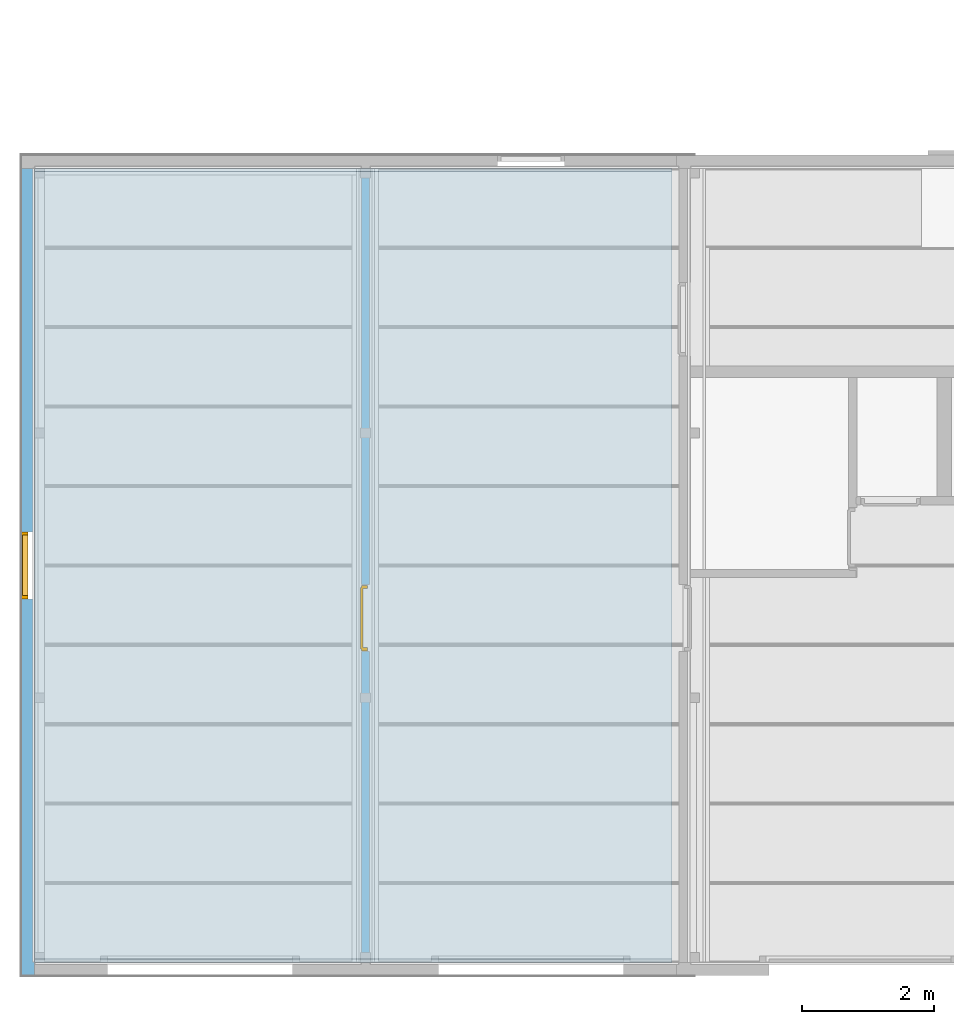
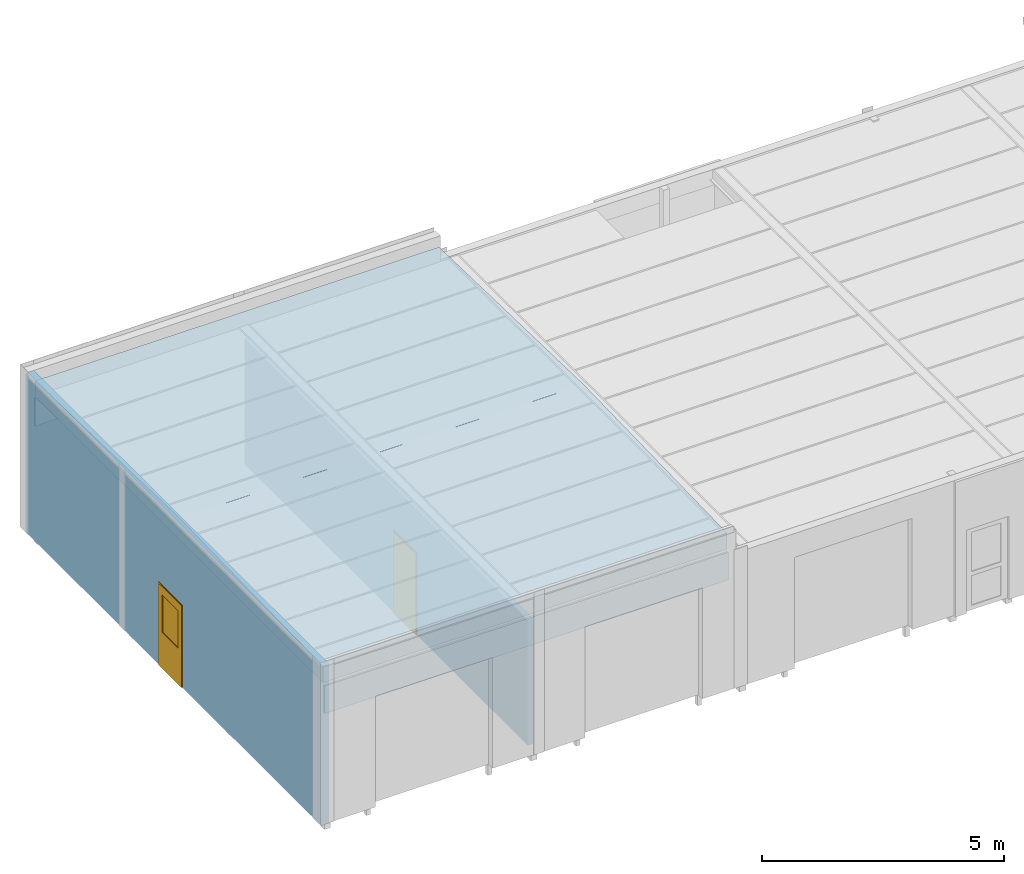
# One storey, part 20 of 45: 2 doors, 1 slab, 2 openings, plus 2 elements that do not belong to this part.
"""IFC2X3 building model written with IfcOpenShell, lengths in millimetres."""

from ifc_helpers import new_model, entity, si_unit, converted_unit, frame, frame_2d, origin, origin_with_axes, place, context, subcontext, project, spatial, rectangle, extrude, faceted_brep, material, layer, layer_set, layer_usage, type_object, element, fill, save


model = new_model("IFC2X3")

# Units and contexts
model_context = context("Model", 3, precision=1e-05, world=origin())
plan_context = context("Plan", 3, precision=1e-05, world=origin())
body_context = subcontext(model_context, "Body", "Model", "MODEL_VIEW")
ifc_project = project(units=[si_unit("LENGTHUNIT", "METRE", prefix="MILLI"), converted_unit("PLANEANGLEUNIT", "DEGREE", entity("IfcPlaneAngleMeasure", 0.0174532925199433), si_unit("PLANEANGLEUNIT", "RADIAN"), dimensions=[0, 0, 0, 0, 0, 0, 0]), si_unit("AREAUNIT", "SQUARE_METRE"), si_unit("VOLUMEUNIT", "CUBIC_METRE")], contexts=[model_context, plan_context])

# Building, storey
building_placement = place(None, origin())
building = spatial("IfcBuilding", under=ifc_project, at=building_placement, Name="HEKF Administrasjonbygg", CompositionType="ELEMENT")
storey_placement = place(building_placement, frame((0.0, 0.0, 6500.0), z_axis=(0.0, 0.0, 1.0), x_axis=(1.0, 0.0, 0.0)))
storey = spatial("IfcBuildingStorey", under=building, at=storey_placement, Name="Plan 1", CompositionType="ELEMENT", Elevation=6500.0)

# Slab
ifc_material_1 = material(Name="Betong")
slab_placement = place(storey_placement, frame((0.0, 0.0, -6500.0), z_axis=(0.0, 0.0, 1.0), x_axis=(1.0, 0.0, 0.0)))
element("IfcSlab", 1, at=slab_placement, inside=storey, material=ifc_material_1, PredefinedType="FLOOR", context=body_context, shape_type="Brep", body=[
    faceted_brep([(9634.999999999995, -6000.00000000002, 9870.0), (9.066525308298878e-12, -6000.000000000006, 9870.0), (9.066525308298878e-12, -6025.000000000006, 9870.0), (9634.999999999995, -6024.999999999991, 9870.0), (9.066525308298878e-12, -6000.000000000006, 10425.80623333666), (9634.999999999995, -6000.00000000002, 10425.80623333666), (9634.999999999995, -6024.999999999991, 10426.46088137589), (9.066525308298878e-12, -6025.000000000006, 10426.46088137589), (9.066525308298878e-12, -6000.000000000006, 9870.0), (9634.999999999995, -6000.00000000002, 9870.0), (9634.999999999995, -6000.00000000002, 10425.80623333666), (9.066525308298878e-12, -6000.000000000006, 10425.80623333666), (9.066525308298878e-12, -6025.000000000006, 9870.0), (9.066525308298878e-12, -6000.000000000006, 9870.0), (9.066525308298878e-12, -6000.000000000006, 10425.80623333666), (9.066525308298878e-12, -6025.000000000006, 10426.46088137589), (9634.999999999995, -6024.999999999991, 9870.0), (9.066525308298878e-12, -6025.000000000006, 9870.0), (9.066525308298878e-12, -6025.000000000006, 10426.46088137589), (9634.999999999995, -6024.999999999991, 10426.46088137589), (9634.999999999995, -6000.00000000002, 9870.0), (9634.999999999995, -6024.999999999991, 9870.0), (9634.999999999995, -6024.999999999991, 10426.46088137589), (9634.999999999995, -6000.00000000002, 10425.80623333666)], [[[0, 1, 2, 3]], [[4, 5, 6, 7]], [[8, 9, 10, 11]], [[12, 13, 14, 15]], [[16, 17, 18, 19]], [[20, 21, 22, 23]]], orient=[[False], [False], [False], [False], [False], [False]]),
    faceted_brep([(9634.999999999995, -50.00000000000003, 9870.0), (9.066525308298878e-12, -50.00000000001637, 9870.0), (9.066525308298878e-12, -5974.999999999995, 9870.0), (9634.999999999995, -5975.000000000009, 9870.0), (9.066525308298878e-12, -50.00000000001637, 10270.0), (9634.999999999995, -50.00000000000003, 10270.0), (9634.999999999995, -5975.000000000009, 10425.15158529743), (9.066525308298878e-12, -5974.999999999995, 10425.15158529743), (9.066525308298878e-12, -50.00000000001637, 9870.0), (9634.999999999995, -50.00000000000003, 9870.0), (9634.999999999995, -50.00000000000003, 10270.0), (9.066525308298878e-12, -50.00000000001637, 10270.0), (9.066525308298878e-12, -5974.999999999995, 9870.0), (9.066525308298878e-12, -50.00000000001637, 9870.0), (9.066525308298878e-12, -50.00000000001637, 10270.0), (9.066525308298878e-12, -5974.999999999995, 10425.15158529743), (9634.999999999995, -5975.000000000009, 9870.0), (9.066525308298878e-12, -5974.999999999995, 9870.0), (9.066525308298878e-12, -5974.999999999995, 10425.15158529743), (9634.999999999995, -5975.000000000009, 10425.15158529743), (9634.999999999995, -50.00000000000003, 9870.0), (9634.999999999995, -5975.000000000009, 9870.0), (9634.999999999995, -5975.000000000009, 10425.15158529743), (9634.999999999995, -50.00000000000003, 10270.0)], [[[0, 1, 2, 3]], [[4, 5, 6, 7]], [[8, 9, 10, 11]], [[12, 13, 14, 15]], [[16, 17, 18, 19]], [[20, 21, 22, 23]]], orient=[[False], [False], [False], [False], [False], [False]]),
    faceted_brep([(9634.999999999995, -6000.00000000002, 9870.0), (9634.999999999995, -5975.000000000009, 9870.0), (9.066525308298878e-12, -5974.999999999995, 9870.0), (9.066525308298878e-12, -6000.000000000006, 9870.0), (9634.999999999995, -5975.000000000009, 10426.46088137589), (9634.999999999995, -6000.00000000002, 10425.80623333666), (9.066525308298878e-12, -6000.000000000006, 10425.80623333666), (9.066525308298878e-12, -5974.999999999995, 10426.46088137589), (9634.999999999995, -5975.000000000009, 9870.0), (9634.999999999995, -6000.00000000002, 9870.0), (9634.999999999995, -6000.00000000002, 10425.80623333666), (9634.999999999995, -5975.000000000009, 10426.46088137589), (9.066525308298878e-12, -5974.999999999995, 9870.0), (9634.999999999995, -5975.000000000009, 9870.0), (9634.999999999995, -5975.000000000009, 10426.46088137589), (9.066525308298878e-12, -5974.999999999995, 10426.46088137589), (9.066525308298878e-12, -6000.000000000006, 9870.0), (9.066525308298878e-12, -5974.999999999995, 9870.0), (9.066525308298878e-12, -5974.999999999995, 10426.46088137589), (9.066525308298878e-12, -6000.000000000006, 10425.80623333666), (9634.999999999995, -6000.00000000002, 9870.0), (9.066525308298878e-12, -6000.000000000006, 9870.0), (9.066525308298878e-12, -6000.000000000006, 10425.80623333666), (9634.999999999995, -6000.00000000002, 10425.80623333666)], [[[0, 1, 2, 3]], [[4, 5, 6, 7]], [[8, 9, 10, 11]], [[12, 13, 14, 15]], [[16, 17, 18, 19]], [[20, 21, 22, 23]]], orient=[[False], [False], [False], [False], [False], [False]]),
    faceted_brep([(9.066525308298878e-12, -11949.99999999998, 9870.0), (9634.999999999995, -11950.0, 9870.0), (9634.999999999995, -6024.999999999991, 9870.0), (9.066525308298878e-12, -6025.000000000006, 9870.0), (9634.999999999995, -11950.0, 10270.0), (9.066525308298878e-12, -11949.99999999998, 10270.0), (9.066525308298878e-12, -6025.000000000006, 10425.15158529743), (9634.999999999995, -6024.999999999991, 10425.15158529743), (9634.999999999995, -11950.0, 9870.0), (9.066525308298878e-12, -11949.99999999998, 9870.0), (9.066525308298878e-12, -11949.99999999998, 10270.0), (9634.999999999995, -11950.0, 10270.0), (9634.999999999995, -6024.999999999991, 9870.0), (9634.999999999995, -11950.0, 9870.0), (9634.999999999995, -11950.0, 10270.0), (9634.999999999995, -6024.999999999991, 10425.15158529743), (9.066525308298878e-12, -6025.000000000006, 9870.0), (9634.999999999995, -6024.999999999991, 9870.0), (9634.999999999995, -6024.999999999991, 10425.15158529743), (9.066525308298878e-12, -6025.000000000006, 10425.15158529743), (9.066525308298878e-12, -11949.99999999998, 9870.0), (9.066525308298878e-12, -6025.000000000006, 9870.0), (9.066525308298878e-12, -6025.000000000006, 10425.15158529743), (9.066525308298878e-12, -11949.99999999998, 10270.0)], [[[0, 1, 2, 3]], [[4, 5, 6, 7]], [[8, 9, 10, 11]], [[12, 13, 14, 15]], [[16, 17, 18, 19]], [[20, 21, 22, 23]]], orient=[[False], [False], [False], [False], [False], [False]]),
    faceted_brep([(9634.999999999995, -11950.0, 9820.0), (9634.999999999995, -12000.0, 9820.0), (9.066525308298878e-12, -12000.00000000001, 9820.0), (9.066525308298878e-12, -11949.99999999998, 9820.0), (9634.999999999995, -11950.0, 9120.0), (9.066525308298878e-12, -11949.99999999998, 9120.0), (9.066525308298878e-12, -12000.00000000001, 9120.0), (9634.999999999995, -12000.0, 9120.0), (9.066525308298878e-12, -5.570655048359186e-12, 9820.0), (9634.999999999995, -1.13686837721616e-13, 9820.0), (9634.999999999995, -50.00000000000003, 9820.0), (9.066525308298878e-12, -50.00000000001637, 9820.0), (9.066525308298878e-12, -5.570655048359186e-12, 9120.0), (9.066525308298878e-12, -50.00000000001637, 9120.0), (9634.999999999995, -50.00000000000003, 9120.0), (9634.999999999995, -1.13686837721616e-13, 9120.0), (9634.999999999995, -11950.0, 9820.0), (9.066525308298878e-12, -11949.99999999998, 9820.0), (9.066525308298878e-12, -11949.99999999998, 9120.0), (9634.999999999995, -11950.0, 9120.0), (9.066525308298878e-12, -11949.99999999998, 9820.0), (9.066525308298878e-12, -12000.00000000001, 9820.0), (9.066525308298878e-12, -12000.00000000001, 9120.0), (9.066525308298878e-12, -11949.99999999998, 9120.0), (9.066525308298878e-12, -12000.00000000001, 9820.0), (9634.999999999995, -12000.0, 9820.0), (9634.999999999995, -12000.0, 9120.0), (9.066525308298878e-12, -12000.00000000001, 9120.0), (9634.999999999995, -12000.0, 9820.0), (9634.999999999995, -11950.0, 9820.0), (9634.999999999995, -11950.0, 9120.0), (9634.999999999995, -12000.0, 9120.0), (9.066525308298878e-12, -5.570655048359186e-12, 9820.0), (9.066525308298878e-12, -50.00000000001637, 9820.0), (9.066525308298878e-12, -50.00000000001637, 9120.0), (9.066525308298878e-12, -5.570655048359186e-12, 9120.0), (9.066525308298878e-12, -50.00000000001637, 9820.0), (9634.999999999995, -50.00000000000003, 9820.0), (9634.999999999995, -50.00000000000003, 9120.0), (9.066525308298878e-12, -50.00000000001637, 9120.0), (9634.999999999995, -50.00000000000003, 9820.0), (9634.999999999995, -1.13686837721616e-13, 9820.0), (9634.999999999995, -1.13686837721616e-13, 9120.0), (9634.999999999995, -50.00000000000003, 9120.0), (9634.999999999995, -1.13686837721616e-13, 9820.0), (9.066525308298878e-12, -5.570655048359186e-12, 9820.0), (9.066525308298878e-12, -5.570655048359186e-12, 9120.0), (9634.999999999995, -1.13686837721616e-13, 9120.0)], [[[0, 1, 2, 3]], [[4, 5, 6, 7]], [[8, 9, 10, 11]], [[12, 13, 14, 15]], [[16, 17, 18, 19]], [[20, 21, 22, 23]], [[24, 25, 26, 27]], [[28, 29, 30, 31]], [[32, 33, 34, 35]], [[36, 37, 38, 39]], [[40, 41, 42, 43]], [[44, 45, 46, 47]]], orient=[[False], [False], [False], [False], [False], [False], [False], [False], [False], [False], [False], [False]]),
])

# Wall, opening, door
ifc_material_2 = material(Name="Paroc 200")
ifc_layer_1 = layer(ifc_material_2, 200.0)
ifc_layer_set_1 = layer_set([ifc_layer_1])
ifc_layer_usage_1 = layer_usage(ifc_layer_set_1, "AXIS2", "POSITIVE", 0.0)
wall_1_placement = place(storey_placement, frame((-5.57823417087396e-12, -12200.0, 0.0), z_axis=(0.0, 0.0, 1.0), x_axis=(6.063298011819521e-16, 1.0, 0.0)))
wall_1 = element("IfcWallStandardCase", 2, at=wall_1_placement, inside=storey, material=ifc_layer_usage_1, context=body_context, shape_type="SweptSolid", body=[
    extrude(rectangle(XDim=12200.0, YDim=200.0, at=frame_2d((6100.0, 100.0), x_axis=(1.0, 0.0))), origin_with_axes(), (0.0, 0.0, 1.0), 4000.0),
])
opening_1_placement = place(wall_1_placement, frame((5695.0, 1.211690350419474e-27, 0.0), z_axis=(0.0, 1.0, 0.0), x_axis=(0.0, 0.0, 1.0)))
opening_1 = element("IfcOpeningElement", 3, at=opening_1_placement, cuts=wall_1, Name="D001", ObjectType="Opening", context=body_context, shape_type="SweptSolid", body=[
    extrude(rectangle(XDim=2100.0, YDim=1010.0, at=frame_2d((1050.0, 505.0), x_axis=(1.0, 0.0))), origin_with_axes(), (0.0, 0.0, 1.0), 200.0),
])
ifc_material_3 = material()
door_style_1 = type_object("IfcDoorStyle", Name="D001", ConstructionType="NOTDEFINED", OperationType="USERDEFINED", ParameterTakesPrecedence=False, Sizeable=False)
door_1_placement = place(opening_1_placement, frame((0.0, 0.0, 0.0), z_axis=(1.0, 0.0, 0.0), x_axis=(0.0, 1.0, 0.0)))
door_1 = element("IfcDoor", 4, at=door_1_placement, inside=storey, type_object=door_style_1, material=ifc_material_3, Name="D001", OverallHeight=2100.0, OverallWidth=1010.0, context=body_context, shape_type="Brep", body=[
    faceted_brep([(1010.0, 200.0000000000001, 2100.0), (960.0, 200.0000000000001, 2100.0), (960.0, 200.0, -3.061616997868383e-15), (1010.0, 200.0, -3.061616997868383e-15), (1010.0, 100.0, 3.061616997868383e-15), (960.0, 99.99999999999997, 3.061616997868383e-15), (960.0, 100.0000000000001, 2100.0), (1010.0, 100.0000000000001, 2100.0), (1010.0, 200.0, -3.061616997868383e-15), (1010.0, 100.0, 3.061616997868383e-15), (1010.0, 100.0000000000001, 2100.0), (1010.0, 200.0000000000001, 2100.0), (960.0, 200.0, -3.061616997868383e-15), (960.0, 99.99999999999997, 3.061616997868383e-15), (1010.0, 100.0, 3.061616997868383e-15), (1010.0, 200.0, -3.061616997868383e-15), (960.0, 200.0000000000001, 2100.0), (960.0, 100.0000000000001, 2100.0), (960.0, 99.99999999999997, 3.061616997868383e-15), (960.0, 200.0, -3.061616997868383e-15), (1010.0, 200.0000000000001, 2100.0), (1010.0, 100.0000000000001, 2100.0), (960.0, 100.0000000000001, 2100.0), (960.0, 200.0000000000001, 2100.0)], [[[0, 1, 2, 3]], [[4, 5, 6, 7]], [[8, 9, 10, 11]], [[12, 13, 14, 15]], [[16, 17, 18, 19]], [[20, 21, 22, 23]]], orient=[[False], [False], [False], [False], [False], [False]]),
    faceted_brep([(50.0, 199.9999999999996, 2100.0), (0.0, 199.9999999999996, 2100.0), (0.0, 199.9999999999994, -3.061616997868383e-15), (50.0, 199.9999999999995, -3.061616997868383e-15), (50.0, 99.99999999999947, 3.061616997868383e-15), (0.0, 99.99999999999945, 3.061616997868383e-15), (0.0, 99.99999999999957, 2100.0), (50.0, 99.9999999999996, 2100.0), (50.0, 199.9999999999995, -3.061616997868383e-15), (50.0, 99.99999999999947, 3.061616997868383e-15), (50.0, 99.9999999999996, 2100.0), (50.0, 199.9999999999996, 2100.0), (0.0, 199.9999999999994, -3.061616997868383e-15), (0.0, 99.99999999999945, 3.061616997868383e-15), (50.0, 99.99999999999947, 3.061616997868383e-15), (50.0, 199.9999999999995, -3.061616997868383e-15), (0.0, 199.9999999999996, 2100.0), (0.0, 99.99999999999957, 2100.0), (0.0, 99.99999999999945, 3.061616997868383e-15), (0.0, 199.9999999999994, -3.061616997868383e-15), (50.0, 199.9999999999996, 2100.0), (50.0, 99.9999999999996, 2100.0), (0.0, 99.99999999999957, 2100.0), (0.0, 199.9999999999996, 2100.0)], [[[0, 1, 2, 3]], [[4, 5, 6, 7]], [[8, 9, 10, 11]], [[12, 13, 14, 15]], [[16, 17, 18, 19]], [[20, 21, 22, 23]]], orient=[[False], [False], [False], [False], [False], [False]]),
    faceted_brep([(960.0, 200.0, 9.999999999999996), (50.00000000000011, 199.9999999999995, 9.999999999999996), (50.00000000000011, 199.9999999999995, -3.061616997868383e-15), (960.0, 200.0, -3.061616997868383e-15), (960.0, 99.99999999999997, 3.061616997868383e-15), (50.00000000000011, 99.99999999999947, 3.061616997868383e-15), (50.00000000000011, 99.99999999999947, 10.0), (960.0, 99.99999999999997, 10.0), (960.0, 200.0, -3.061616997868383e-15), (960.0, 99.99999999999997, 3.061616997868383e-15), (960.0, 99.99999999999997, 10.0), (960.0, 200.0, 9.999999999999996), (50.00000000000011, 199.9999999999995, -3.061616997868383e-15), (50.00000000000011, 99.99999999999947, 3.061616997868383e-15), (960.0, 99.99999999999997, 3.061616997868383e-15), (960.0, 200.0, -3.061616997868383e-15), (50.00000000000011, 199.9999999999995, 9.999999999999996), (50.00000000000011, 99.99999999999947, 10.0), (50.00000000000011, 99.99999999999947, 3.061616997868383e-15), (50.00000000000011, 199.9999999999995, -3.061616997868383e-15), (960.0, 200.0, 9.999999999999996), (960.0, 99.99999999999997, 10.0), (50.00000000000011, 99.99999999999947, 10.0), (50.00000000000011, 199.9999999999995, 9.999999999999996)], [[[0, 1, 2, 3]], [[4, 5, 6, 7]], [[8, 9, 10, 11]], [[12, 13, 14, 15]], [[16, 17, 18, 19]], [[20, 21, 22, 23]]], orient=[[False], [False], [False], [False], [False], [False]]),
    faceted_brep([(960.0, 200.0000000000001, 2100.000000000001), (50.00000000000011, 199.9999999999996, 2100.000000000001), (50.00000000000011, 199.9999999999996, 2050.000000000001), (960.0, 200.0000000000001, 2050.000000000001), (960.0, 100.0000000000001, 2050.000000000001), (50.00000000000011, 99.9999999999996, 2050.000000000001), (50.00000000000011, 99.9999999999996, 2100.000000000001), (960.0, 100.0000000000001, 2100.000000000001), (960.0, 200.0000000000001, 2050.000000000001), (960.0, 100.0000000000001, 2050.000000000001), (960.0, 100.0000000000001, 2100.000000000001), (960.0, 200.0000000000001, 2100.000000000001), (50.00000000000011, 199.9999999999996, 2050.000000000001), (50.00000000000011, 99.9999999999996, 2050.000000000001), (960.0, 100.0000000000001, 2050.000000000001), (960.0, 200.0000000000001, 2050.000000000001), (50.00000000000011, 199.9999999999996, 2100.000000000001), (50.00000000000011, 99.9999999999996, 2100.000000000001), (50.00000000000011, 99.9999999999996, 2050.000000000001), (50.00000000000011, 199.9999999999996, 2050.000000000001), (960.0, 200.0000000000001, 2100.000000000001), (960.0, 100.0000000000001, 2100.000000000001), (50.00000000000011, 99.9999999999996, 2100.000000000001), (50.00000000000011, 199.9999999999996, 2100.000000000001)], [[[0, 1, 2, 3]], [[4, 5, 6, 7]], [[8, 9, 10, 11]], [[12, 13, 14, 15]], [[16, 17, 18, 19]], [[20, 21, 22, 23]]], orient=[[False], [False], [False], [False], [False], [False]]),
    faceted_brep([(979.9999999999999, 220.0000000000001, 2070.000000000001), (29.99999999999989, 219.9999999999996, 2070.000000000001), (29.99999999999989, 219.9999999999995, 9.999999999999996), (979.9999999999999, 220.0, 9.999999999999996), (830.0, 219.9999999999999, 910.0), (179.9999999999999, 219.9999999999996, 910.0), (179.9999999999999, 219.9999999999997, 1860.0), (830.0, 220.0, 1860.0), (980.0, 180.0, 9.999999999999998), (30.0, 179.9999999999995, 9.999999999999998), (30.0, 179.9999999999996, 2070.000000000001), (980.0, 180.0000000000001, 2070.000000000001), (830.0, 180.0, 1860.0), (180.0, 179.9999999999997, 1860.0), (180.0, 179.9999999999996, 910.0), (830.0, 179.9999999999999, 910.0), (979.9999999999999, 220.0, 9.999999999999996), (980.0, 180.0, 9.999999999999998), (980.0, 180.0000000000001, 2070.000000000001), (979.9999999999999, 220.0000000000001, 2070.000000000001), (29.99999999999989, 219.9999999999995, 9.999999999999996), (30.0, 179.9999999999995, 9.999999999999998), (980.0, 180.0, 9.999999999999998), (979.9999999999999, 220.0, 9.999999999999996), (29.99999999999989, 219.9999999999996, 2070.000000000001), (30.0, 179.9999999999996, 2070.000000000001), (30.0, 179.9999999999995, 9.999999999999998), (29.99999999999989, 219.9999999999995, 9.999999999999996), (979.9999999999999, 220.0000000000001, 2070.000000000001), (980.0, 180.0000000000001, 2070.000000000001), (30.0, 179.9999999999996, 2070.000000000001), (29.99999999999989, 219.9999999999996, 2070.000000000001), (830.0, 219.9999999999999, 910.0), (830.0, 220.0, 1860.0), (830.0, 180.0, 1860.0), (830.0, 179.9999999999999, 910.0), (179.9999999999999, 219.9999999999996, 910.0), (830.0, 219.9999999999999, 910.0), (830.0, 179.9999999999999, 910.0), (180.0, 179.9999999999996, 910.0), (179.9999999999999, 219.9999999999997, 1860.0), (179.9999999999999, 219.9999999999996, 910.0), (180.0, 179.9999999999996, 910.0), (180.0, 179.9999999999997, 1860.0), (830.0, 220.0, 1860.0), (179.9999999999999, 219.9999999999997, 1860.0), (180.0, 179.9999999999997, 1860.0), (830.0, 180.0, 1860.0)], [[[0, 1, 2, 3], [4, 5, 6, 7]], [[8, 9, 10, 11], [12, 13, 14, 15]], [[16, 17, 18, 19]], [[20, 21, 22, 23]], [[24, 25, 26, 27]], [[28, 29, 30, 31]], [[32, 33, 34, 35]], [[36, 37, 38, 39]], [[40, 41, 42, 43]], [[44, 45, 46, 47]]], orient=[[False, False], [False, False], [False], [False], [False], [False], [False], [False], [False], [False]]),
    faceted_brep([(830.0, 199.9999999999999, 910.0), (830.0, 200.0, 1860.0), (180.0, 199.9999999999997, 1860.0), (180.0, 199.9999999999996, 910.0), (830.0, 198.9999999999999, 910.0), (180.0, 198.9999999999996, 910.0), (180.0, 198.9999999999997, 1860.0), (830.0, 199.0, 1860.0), (830.0, 199.9999999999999, 910.0), (830.0, 198.9999999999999, 910.0), (830.0, 199.0, 1860.0), (830.0, 200.0, 1860.0), (830.0, 200.0, 1860.0), (830.0, 199.0, 1860.0), (180.0, 198.9999999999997, 1860.0), (180.0, 199.9999999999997, 1860.0), (180.0, 199.9999999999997, 1860.0), (180.0, 198.9999999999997, 1860.0), (180.0, 198.9999999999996, 910.0), (180.0, 199.9999999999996, 910.0), (180.0, 199.9999999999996, 910.0), (180.0, 198.9999999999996, 910.0), (830.0, 198.9999999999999, 910.0), (830.0, 199.9999999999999, 910.0)], [[[0, 1, 2, 3]], [[4, 5, 6, 7]], [[8, 9, 10, 11]], [[12, 13, 14, 15]], [[16, 17, 18, 19]], [[20, 21, 22, 23]]], orient=[[False], [False], [False], [False], [False], [False]]),
])
fill(opening_1, door_1)

ifc_material_4 = material(Name="gips")
ifc_layer_2 = layer(ifc_material_4, 13.0)
ifc_material_5 = material(Name="riegel stål 100")
ifc_layer_3 = layer(ifc_material_5, 100.0)
ifc_material_6 = material(Name="gips")
ifc_layer_4 = layer(ifc_material_6, 13.0)
ifc_layer_set_2 = layer_set([ifc_layer_2, ifc_layer_3, ifc_layer_4])
ifc_layer_usage_2 = layer_usage(ifc_layer_set_2, "AXIS2", "POSITIVE", 0.0)
wall_2_placement = place(storey_placement, frame((4937.0, -149.9999999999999, 0.0), z_axis=(0.0, 0.0, 1.0), x_axis=(0.0, -1.0, 0.0)))
wall_2 = element("IfcWallStandardCase", 5, at=wall_2_placement, inside=storey, material=ifc_layer_usage_2, context=body_context, shape_type="SweptSolid", body=[
    extrude(rectangle(XDim=11700.0, YDim=126.0, at=frame_2d((5850.0, 63.0), x_axis=(1.0, 0.0))), origin_with_axes(), (0.0, 0.0, 1.0), 3170.0),
])
opening_2_placement = place(wall_2_placement, frame((6141.263561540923, 0.0, 0.0), z_axis=(0.0, 1.0, 0.0), x_axis=(0.0, 0.0, 1.0)))
opening_2 = element("IfcOpeningElement", 6, at=opening_2_placement, cuts=wall_2, Name="D006", ObjectType="Opening", context=body_context, shape_type="SweptSolid", body=[
    extrude(rectangle(XDim=2100.0, YDim=1010.0, at=frame_2d((1050.0, 505.0), x_axis=(1.0, 0.0))), origin_with_axes(), (0.0, 0.0, 1.0), 126.0),
])
ifc_material_7 = material()
door_style_2 = type_object("IfcDoorStyle", Name="D006", ConstructionType="NOTDEFINED", OperationType="USERDEFINED", ParameterTakesPrecedence=False, Sizeable=False)
door_2_placement = place(opening_2_placement, frame((0.0, 0.0, 0.0), z_axis=(1.0, 0.0, 0.0), x_axis=(0.0, 1.0, 0.0)))
door_2 = element("IfcDoor", 7, at=door_2_placement, inside=storey, type_object=door_style_2, material=ifc_material_7, Name="D006", OverallHeight=2100.0, OverallWidth=1010.0, context=body_context, shape_type="Brep", body=[
    faceted_brep([(1000.0, 3.999999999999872, 2080.0), (1000.0, 4.0, -2.816687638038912e-15), (950.0, 4.0, -2.816687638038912e-15), (950.0, 3.999999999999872, 2080.0), (1000.0, 96.0, 2.816687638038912e-15), (1000.0, 95.99999999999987, 2080.0), (950.0, 95.99999999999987, 2080.0), (950.0, 96.0, 2.816687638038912e-15), (1000.0, 4.0, -2.816687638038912e-15), (1000.0, 3.999999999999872, 2080.0), (1000.0, 95.99999999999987, 2080.0), (1000.0, 96.0, 2.816687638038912e-15), (950.0, 4.0, -2.816687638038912e-15), (1000.0, 4.0, -2.816687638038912e-15), (1000.0, 96.0, 2.816687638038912e-15), (950.0, 96.0, 2.816687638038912e-15), (950.0, 3.999999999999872, 2080.0), (950.0, 4.0, -2.816687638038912e-15), (950.0, 96.0, 2.816687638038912e-15), (950.0, 95.99999999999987, 2080.0), (1000.0, 3.999999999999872, 2080.0), (950.0, 3.999999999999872, 2080.0), (950.0, 95.99999999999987, 2080.0), (1000.0, 95.99999999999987, 2080.0)], [[[0, 1, 2, 3]], [[4, 5, 6, 7]], [[8, 9, 10, 11]], [[12, 13, 14, 15]], [[16, 17, 18, 19]], [[20, 21, 22, 23]]], orient=[[False], [False], [False], [False], [False], [False]]),
    faceted_brep([(60.0, 3.999999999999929, 2080.0), (60.0, 4.000000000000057, -2.816687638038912e-15), (10.0, 4.000000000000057, -2.816687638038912e-15), (10.0, 3.999999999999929, 2080.0), (60.0, 96.00000000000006, 2.816687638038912e-15), (60.0, 95.99999999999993, 2080.0), (10.0, 95.99999999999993, 2080.0), (10.0, 96.00000000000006, 2.816687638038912e-15), (60.0, 4.000000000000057, -2.816687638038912e-15), (60.0, 3.999999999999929, 2080.0), (60.0, 95.99999999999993, 2080.0), (60.0, 96.00000000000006, 2.816687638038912e-15), (10.0, 4.000000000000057, -2.816687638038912e-15), (60.0, 4.000000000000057, -2.816687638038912e-15), (60.0, 96.00000000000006, 2.816687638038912e-15), (10.0, 96.00000000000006, 2.816687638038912e-15), (10.0, 3.999999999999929, 2080.0), (10.0, 4.000000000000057, -2.816687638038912e-15), (10.0, 96.00000000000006, 2.816687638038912e-15), (10.0, 95.99999999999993, 2080.0), (60.0, 3.999999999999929, 2080.0), (10.0, 3.999999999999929, 2080.0), (10.0, 95.99999999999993, 2080.0), (60.0, 95.99999999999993, 2080.0)], [[[0, 1, 2, 3]], [[4, 5, 6, 7]], [[8, 9, 10, 11]], [[12, 13, 14, 15]], [[16, 17, 18, 19]], [[20, 21, 22, 23]]], orient=[[False], [False], [False], [False], [False], [False]]),
    faceted_brep([(950.0, 3.999999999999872, 2080.0), (950.0, 3.999999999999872, 2030.0), (60.00000000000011, 3.999999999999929, 2030.0), (60.00000000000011, 3.999999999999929, 2080.0), (950.0, 95.99999999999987, 2030.0), (950.0, 95.99999999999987, 2080.000000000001), (60.00000000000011, 95.99999999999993, 2080.000000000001), (60.00000000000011, 95.99999999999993, 2030.0), (950.0, 3.999999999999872, 2030.0), (950.0, 3.999999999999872, 2080.0), (950.0, 95.99999999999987, 2080.000000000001), (950.0, 95.99999999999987, 2030.0), (60.00000000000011, 3.999999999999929, 2030.0), (950.0, 3.999999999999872, 2030.0), (950.0, 95.99999999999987, 2030.0), (60.00000000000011, 95.99999999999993, 2030.0), (60.00000000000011, 3.999999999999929, 2080.0), (60.00000000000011, 3.999999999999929, 2030.0), (60.00000000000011, 95.99999999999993, 2030.0), (60.00000000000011, 95.99999999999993, 2080.000000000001), (950.0, 3.999999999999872, 2080.0), (60.00000000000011, 3.999999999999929, 2080.0), (60.00000000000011, 95.99999999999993, 2080.000000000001), (950.0, 95.99999999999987, 2080.000000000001)], [[[0, 1, 2, 3]], [[4, 5, 6, 7]], [[8, 9, 10, 11]], [[12, 13, 14, 15]], [[16, 17, 18, 19]], [[20, 21, 22, 23]]], orient=[[False], [False], [False], [False], [False], [False]]),
    faceted_brep([(970.0, -16.00000000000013, 2050.000000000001), (970.0, -16.0, -4.041334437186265e-15), (40.00000000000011, -15.99999999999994, -4.041334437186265e-15), (40.00000000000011, -16.00000000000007, 2050.000000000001), (970.0, 24.0, -1.592040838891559e-15), (970.0, 23.99999999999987, 2050.000000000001), (40.00000000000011, 23.99999999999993, 2050.000000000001), (40.00000000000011, 24.00000000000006, -1.592040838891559e-15), (970.0, -16.0, -4.041334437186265e-15), (970.0, -16.00000000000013, 2050.000000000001), (970.0, 23.99999999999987, 2050.000000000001), (970.0, 24.0, -1.592040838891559e-15), (40.00000000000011, -15.99999999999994, -4.041334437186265e-15), (970.0, -16.0, -4.041334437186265e-15), (970.0, 24.0, -1.592040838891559e-15), (40.00000000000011, 24.00000000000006, -1.592040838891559e-15), (40.00000000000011, -16.00000000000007, 2050.000000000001), (40.00000000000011, -15.99999999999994, -4.041334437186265e-15), (40.00000000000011, 24.00000000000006, -1.592040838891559e-15), (40.00000000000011, 23.99999999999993, 2050.000000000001), (970.0, -16.00000000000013, 2050.000000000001), (40.00000000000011, -16.00000000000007, 2050.000000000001), (40.00000000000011, 23.99999999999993, 2050.000000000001), (970.0, 23.99999999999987, 2050.000000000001)], [[[0, 1, 2, 3]], [[4, 5, 6, 7]], [[8, 9, 10, 11]], [[12, 13, 14, 15]], [[16, 17, 18, 19]], [[20, 21, 22, 23]]], orient=[[False], [False], [False], [False], [False], [False]]),
])
fill(opening_2, door_2)

save(model, "model.ifc")
